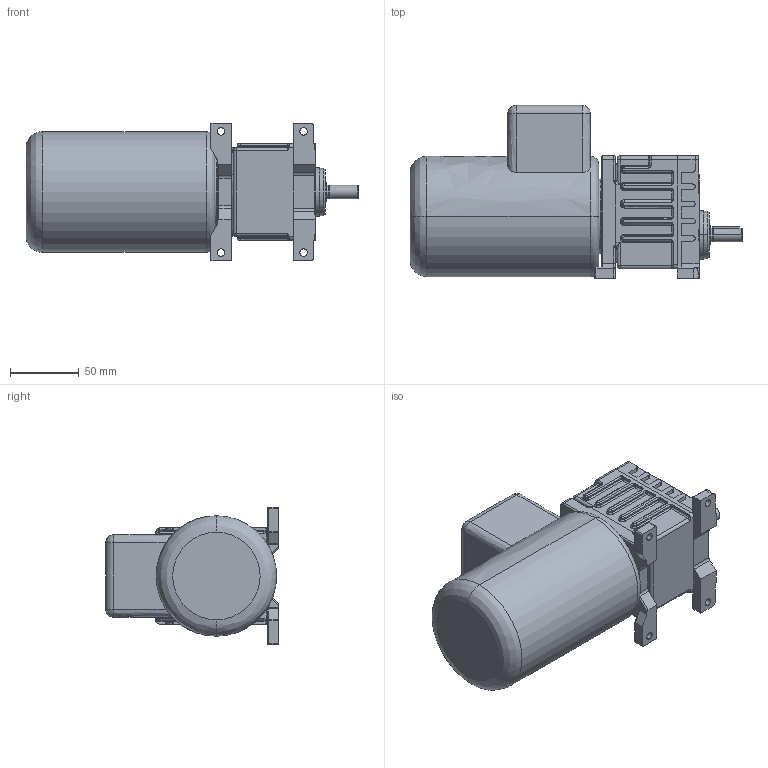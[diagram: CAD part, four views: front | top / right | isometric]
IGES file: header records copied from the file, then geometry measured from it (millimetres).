
Start section: Elysium IGES Interface
Global section: file name: E:\000 CAD\122 G2_Serie\01 Zusammenstellung+U-Satz+Stueckliste\122_013 ...._Getriebe\G23_G27_BF_B3_20W_30W_Motor_3D.igs; native system: SolidDesigner 15.00B  25-Jun-2007; preprocessor: OneSpace IGES_3D V2.2; author: Unknown; organization: Unknown; date: 20070827.101021; units: millimetre
Bounding box: 241 x 125.53 x 100 mm (x, y, z)
Volume: 1361691.4 mm3; surface area: 96030.3 mm2
Topology: 1 solids, 1 shells, 622 faces, 1536 edges, 900 vertices
Faces by surface type: bspline 622
